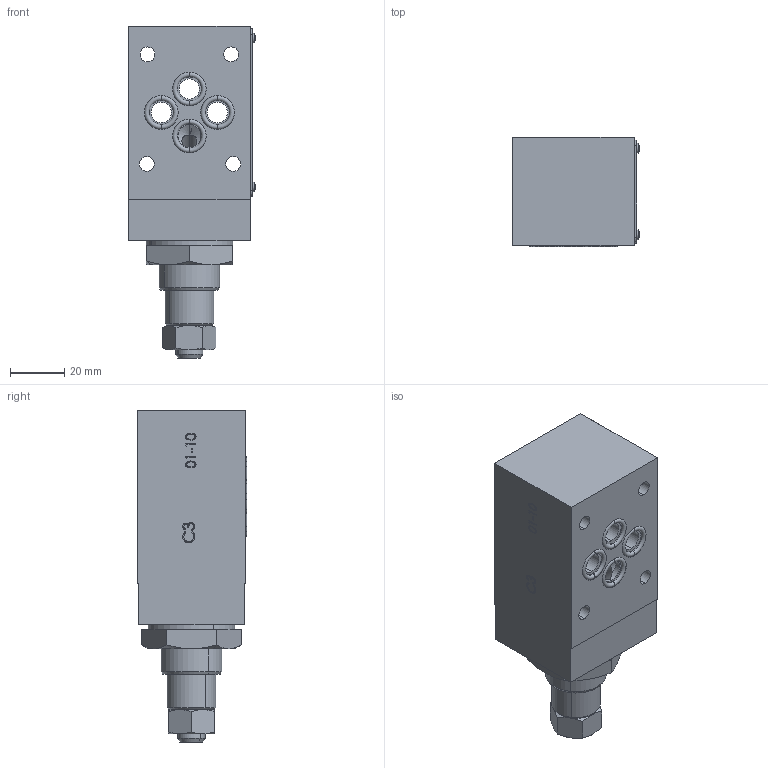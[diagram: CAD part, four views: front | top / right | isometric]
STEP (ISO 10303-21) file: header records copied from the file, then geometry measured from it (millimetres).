
FILE_DESCRIPTION (( 'STEP AP214' ), '1' );
FILE_NAME ('FT358-5-B-03.STEP', '2014-06-18T06:34:39', ( '' ), ( '' ), 'SwSTEP 2.0', 'SolidWorks 2014', '' );
FILE_SCHEMA (( 'AUTOMOTIVE_DESIGN' ));
Length unit declared in the file: millimetre
Products named in the file (17): 358-5-B015000; 357-5-B001000; FT358-5-B-03; 358-5AB012000; OR2037; OR2068; OR132; AnelloFermoFT1251_2-01-12; 257-6-009000-38; 267-5-002001-38; 267-5-008001-38; 358-5-AB017000; 267-5-018000-38; OR2018; BK2018; 357-5-AB101000; RivettoTarga
Assembly tree (22 placements, depth 2):
  FT358-5-B-03
    357-5-B001000
    358-5-B015000
    RivettoTarga  x4
    357-5-AB101000
    BK2018
    OR2018
    267-5-018000-38
    358-5-AB017000
    267-5-008001-38
    267-5-002001-38
    257-6-009000-38
    AnelloFermoFT1251_2-01-12
    OR132
    OR2068
    OR2037  x4
    358-5AB012000
Bounding box: 46.96 x 40.38 x 122.8 mm (x, y, z)
Volume: 147668.1 mm3; surface area: 49802.2 mm2
Topology: 22 solids, 22 shells, 1778 faces, 4485 edges, 2908 vertices
Faces by surface type: plane 944, bspline 402, cylinder 254, cone 138, torus 40
Entity records: 90422 total; most frequent: CARTESIAN_POINT 37224, ORIENTED_EDGE 8750, DIRECTION 6689, EDGE_CURVE 4375, LINE 2895, VECTOR 2895, VERTEX_POINT 2854, EDGE_LOOP 1957
